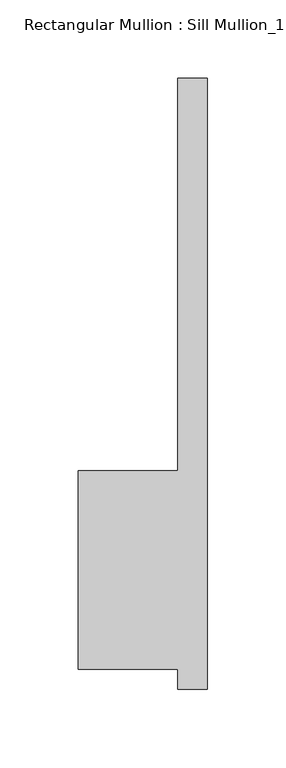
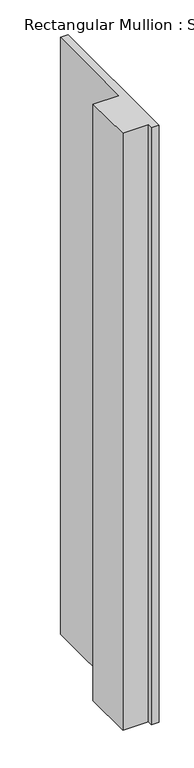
"""IFC4 building model written with IfcOpenShell, lengths in millimetres: member geometry."""

from ifc_helpers import new_model, si_unit, frame, origin, place, context, project, spatial, polyline, outline, extrude, source, transform, mapped, element, save


def member_436e31f1(model_context):
    return source(origin(), model_context, "Body", "SweptSolid", [
        extrude(outline(polyline([(-82.55, 50.8), (-19.05, 50.8), (-19.05, 301.625), (0.0, 301.625), (0.0, -88.9), (-19.05, -88.9), (-19.05, -76.2), (-82.55, -76.2), (-82.55, 50.8)])), frame((0.0, 0.0, -1562.1), z_axis=(0.0, 0.0, 1.0), x_axis=(1.0, 0.0, 0.0)), (0.0, 0.0, 1.0), 1562.1),
    ])


if __name__ == "__main__":
    model = new_model("IFC4")
    model_context = context("Model", 3, world=origin())
    ifc_project = project(units=[si_unit("LENGTHUNIT", "METRE", prefix="MILLI")], contexts=[model_context])
    site = spatial("IfcSite", under=ifc_project)
    building = spatial("IfcBuilding", under=site)
    placement = place(None, origin())
    member_shape = member_436e31f1(model_context)
    element("IfcMember", 1, ObjectType="Rectangular Mullion : Sill Mullion_15\" thick wall", at=placement, inside=building, context=model_context, shape_type="MappedRepresentation", body=[
        mapped(member_shape, transform((0.0, 0.0, 0.0), x_axis=(1.0, 0.0, 0.0), y_axis=(0.0, 1.0, 0.0), z_axis=(0.0, 0.0, 1.0))),
    ])
    save(model, "model.ifc")
